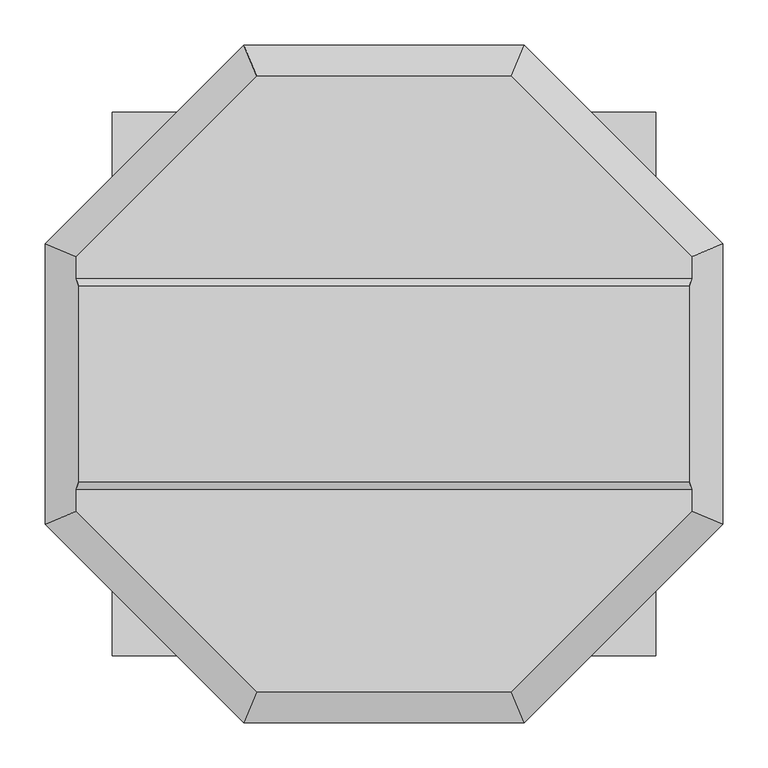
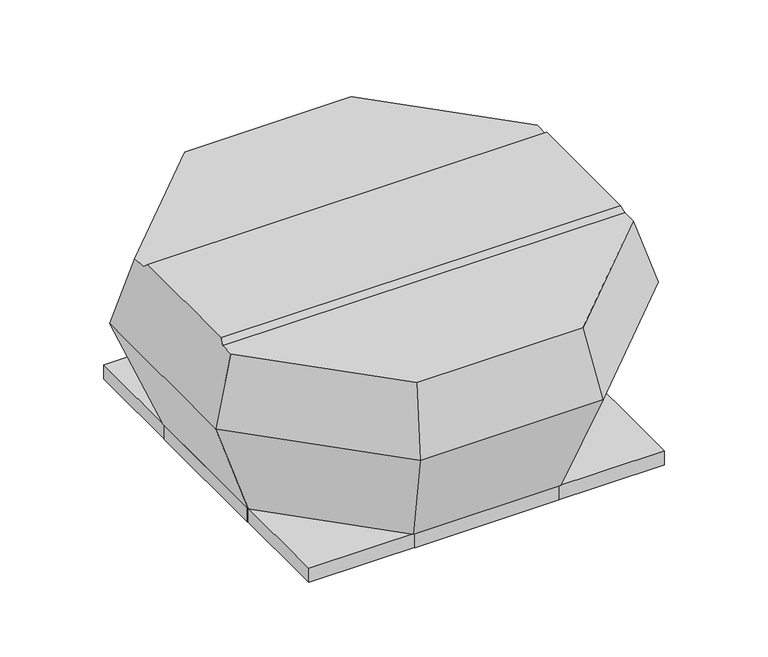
"""IFC4 building model written with IfcOpenShell, lengths in millimetres: unitary equipment geometry, VE-Wentylator-ParaForma-Harmann-VIVER_PT-Wywiewny : 4-355/2700PT."""

from ifc_helpers import new_model, si_unit, origin, place, context, project, spatial, faceted_brep, source, transform, mapped, element, save


def unitary_equipment_e5baa73c(model_context):
    return source(origin(), model_context, "Body", "Brep", [
        faceted_brep([(336.1792386, -107.5, 309.5), (336.1792386, 107.5, 309.5), (-336.1792386, 107.5, 309.5), (-336.1792386, -107.5, 309.5), (338.7141628, 115.95, 301.1), (-338.7141628, 115.95, 301.1), (338.7141628, -115.95, 301.1), (-338.7141628, -115.95, 301.1), (140.3, -338.7141628, 301.1), (338.7141628, -140.3, 301.1), (-338.7141628, -140.3, 301.1), (-140.3, -338.7141628, 301.1), (338.7141628, 140.3, 301.1), (140.3, 338.7141628, 301.1), (-140.3, 338.7141628, 301.1), (-338.7141628, 140.3, 301.1), (154.4, -372.754574, 188.3), (372.754574, -154.4, 188.3), (372.754574, 154.4, 188.3), (154.4, 372.754574, 188.3), (-154.4, 372.754574, 188.3), (-372.754574, 154.4, 188.3), (-372.754574, -154.4, 188.3), (-154.4, -372.754574, 188.3), (124.3, -300.0867458, 1.5), (-124.3, -300.0867458, 1.5), (-300.0867458, -124.3, 1.5), (-300.0867458, 124.3, 1.5), (-124.3, 300.0867458, 1.5), (124.3, 300.0867458, 1.5), (300.0867458, 124.3, 1.5), (300.0867458, -124.3, 1.5)], [[[0, 1, 2, 3]], [[1, 4, 5, 2]], [[6, 0, 3, 7]], [[8, 9, 6, 7, 10, 11]], [[12, 13, 14, 15, 5, 4]], [[9, 8, 16, 17]], [[9, 17, 18, 12, 4, 1, 0, 6]], [[13, 12, 18, 19]], [[14, 13, 19, 20]], [[15, 14, 20, 21]], [[15, 21, 22, 10, 7, 3, 2, 5]], [[11, 10, 22, 23]], [[8, 11, 23, 16]], [[24, 25, 26, 27, 28, 29, 30, 31]], [[24, 31, 17, 16]], [[31, 30, 18, 17]], [[30, 29, 19, 18]], [[29, 28, 20, 19]], [[28, 27, 21, 20]], [[27, 26, 22, 21]], [[26, 25, 23, 22]], [[25, 24, 16, 23]]]),
        faceted_brep([(297.5, 297.5, -23.5), (297.5, 297.5, 0.0), (-297.5, 297.5, 0.0), (-297.5, 297.5, -23.5), (299.0, 299.0, 1.5), (299.0, 299.0, -23.5), (-299.0, 299.0, -23.5), (-299.0, 299.0, 1.5), (-297.5, -297.5, 0.0), (-297.5, -297.5, -23.5), (-299.0, -299.0, -23.5), (-299.0, -299.0, 1.5), (297.5, -297.5, 0.0), (297.5, -297.5, -23.5), (299.0, -299.0, -23.5), (299.0, -299.0, 1.5)], [[[0, 1, 2, 3]], [[4, 5, 6, 7]], [[3, 2, 8, 9]], [[7, 6, 10, 11]], [[9, 8, 12, 13]], [[11, 10, 14, 15]], [[13, 12, 1, 0]], [[5, 14, 10, 6], [3, 9, 13, 0]], [[15, 14, 5, 4]], [[7, 11, 15, 4]], [[1, 12, 8, 2]]]),
        faceted_brep([(-299.0, -121.3, -23.5), (-300.0, -121.3, -23.5), (-300.0, 121.3, -23.5), (-299.0, 121.3, -23.5), (-299.0, -121.3, 1.5), (-299.0, 121.3, 1.5), (-300.0, 121.3, 1.5), (-300.0, -121.3, 1.5)], [[[0, 1, 2, 3]], [[4, 5, 6, 7]], [[1, 0, 4, 7]], [[2, 1, 7, 6]], [[3, 2, 6, 5]], [[0, 3, 5, 4]]]),
        faceted_brep([(300.0, -121.3, -23.5), (299.0, -121.3, -23.5), (299.0, 121.3, -23.5), (300.0, 121.3, -23.5), (300.0, 121.3, 1.5), (299.0, 121.3, 1.5), (299.0, 5.0, 1.5), (299.0, -5.0, 1.5), (299.0, -121.3, 1.5), (300.0, -121.3, 1.5), (300.0, -5.0, 1.5), (300.0, 5.0, 1.5)], [[[0, 1, 2, 3]], [[4, 5, 6, 7, 8, 9, 10, 11]], [[1, 0, 9, 8]], [[2, 1, 8, 7, 6, 5]], [[3, 2, 5, 4]], [[0, 3, 4, 11, 10, 9]]]),
        faceted_brep([(121.3, 299.0, -23.5), (-121.3, 299.0, -23.5), (-121.3, 300.0, -23.5), (121.3, 300.0, -23.5), (121.3, 299.0, 1.5), (121.3, 300.0, 1.5), (-121.3, 300.0, 1.5), (-121.3, 299.0, 1.5)], [[[0, 1, 2, 3]], [[4, 5, 6, 7]], [[1, 0, 4, 7]], [[2, 1, 7, 6]], [[3, 2, 6, 5]], [[0, 3, 5, 4]]]),
        faceted_brep([(121.3, -300.0, -23.5), (-121.3, -300.0, -23.5), (-121.3, -299.0, -23.5), (121.3, -299.0, -23.5), (121.3, -300.0, 1.5), (121.3, -299.0, 1.5), (-121.3, -299.0, 1.5), (-121.3, -300.0, 1.5)], [[[0, 1, 2, 3]], [[4, 5, 6, 7]], [[1, 0, 4, 7]], [[2, 1, 7, 6]], [[3, 2, 6, 5]], [[0, 3, 5, 4]]]),
    ])


if __name__ == "__main__":
    model = new_model("IFC4")
    model_context = context("Model", 3, world=origin())
    ifc_project = project(units=[si_unit("LENGTHUNIT", "METRE", prefix="MILLI")], contexts=[model_context])
    site = spatial("IfcSite", under=ifc_project)
    building = spatial("IfcBuilding", under=site)
    placement = place(None, origin())
    unitary_equipment_shape = unitary_equipment_e5baa73c(model_context)
    element("IfcUnitaryEquipment", 1, ObjectType="VE-Wentylator-ParaForma-Harmann-VIVER_PT-Wywiewny : 4-355/2700PT", at=placement, inside=building, context=model_context, shape_type="MappedRepresentation", body=[
        mapped(unitary_equipment_shape, transform((0.0, 0.0, 0.0), x_axis=(1.0, 0.0, 0.0), y_axis=(0.0, 1.0, 0.0), z_axis=(0.0, 0.0, 1.0))),
    ])
    save(model, "model.ifc")
